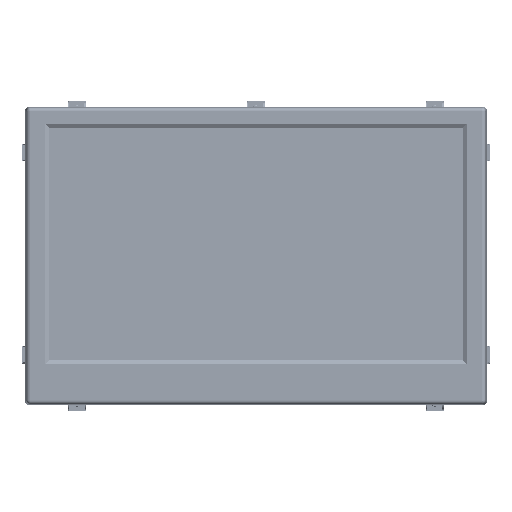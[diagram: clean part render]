
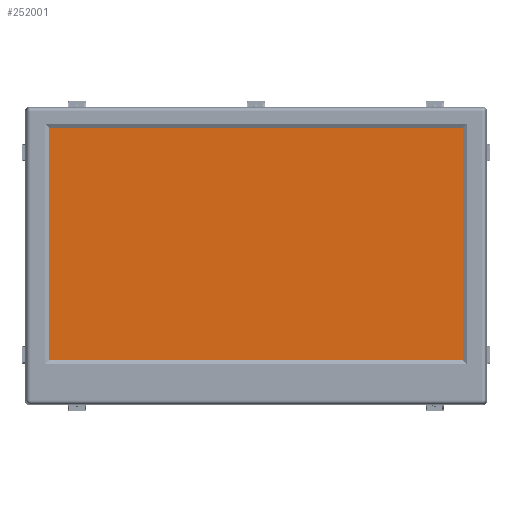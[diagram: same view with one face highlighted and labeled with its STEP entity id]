
A CAD part, top view. The second image highlights one B-rep face of the part: STEP entity #252001.
In plain terms, the highlighted planar face has unit normal (0, 0, 1).
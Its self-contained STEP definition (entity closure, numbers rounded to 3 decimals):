
#251874=DIRECTION('',(1.,0.,0.));
#251875=VECTOR('',#251874,556.);
#251876=CARTESIAN_POINT('',(-280.2,161.6,4.85));
#251877=LINE('',#251876,#251875);
#251886=DIRECTION('',(0.,1.,0.));
#251887=VECTOR('',#251886,323.2);
#251888=CARTESIAN_POINT('',(-280.2,-161.6,4.85));
#251889=LINE('',#251888,#251887);
#251890=DIRECTION('',(-1.,0.,0.));
#251891=VECTOR('',#251890,556.);
#251892=CARTESIAN_POINT('',(275.8,-161.6,4.85));
#251893=LINE('',#251892,#251891);
#251898=DIRECTION('',(0.,-1.,0.));
#251899=VECTOR('',#251898,323.2);
#251900=CARTESIAN_POINT('',(275.8,161.6,4.85));
#251901=LINE('',#251900,#251899);
#251907=CARTESIAN_POINT('',(-280.2,-161.6,4.85));
#251909=VERTEX_POINT('',#251907);
#251912=CARTESIAN_POINT('',(-280.2,161.6,4.85));
#251913=VERTEX_POINT('',#251912);
#251914=CARTESIAN_POINT('',(275.8,161.6,4.85));
#251915=VERTEX_POINT('',#251914);
#251916=CARTESIAN_POINT('',(275.8,-161.6,4.85));
#251917=VERTEX_POINT('',#251916);
#251990=CARTESIAN_POINT('',(-2.2,0.,4.85));
#251991=DIRECTION('',(0.,0.,1.));
#251992=DIRECTION('',(1.,0.,0.));
#251993=AXIS2_PLACEMENT_3D('',#251990,#251991,#251992);
#251994=PLANE('',#251993);
#251995=ORIENTED_EDGE('',*,*,#251972,.T.);
#251996=ORIENTED_EDGE('',*,*,#251958,.T.);
#251997=ORIENTED_EDGE('',*,*,#251944,.T.);
#251998=ORIENTED_EDGE('',*,*,#251985,.T.);
#251999=EDGE_LOOP('',(#251995,#251996,#251997,#251998));
#252000=FACE_OUTER_BOUND('',#251999,.F.);
#252001=ADVANCED_FACE('',(#252000),#251994,.T.);
#251944=EDGE_CURVE('',#251913,#251915,#251877,.T.);
#251958=EDGE_CURVE('',#251909,#251913,#251889,.T.);
#251972=EDGE_CURVE('',#251917,#251909,#251893,.T.);
#251985=EDGE_CURVE('',#251915,#251917,#251901,.T.);
